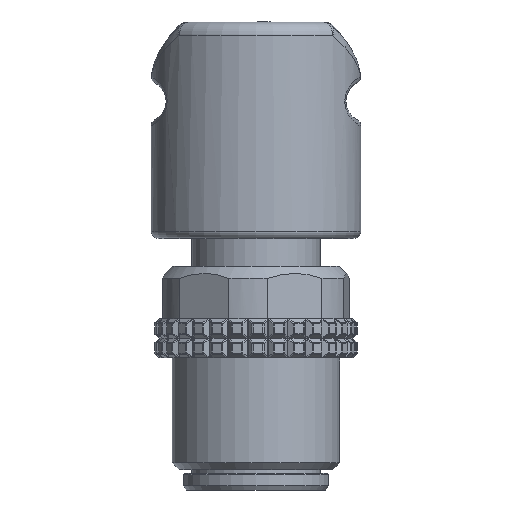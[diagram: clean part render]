
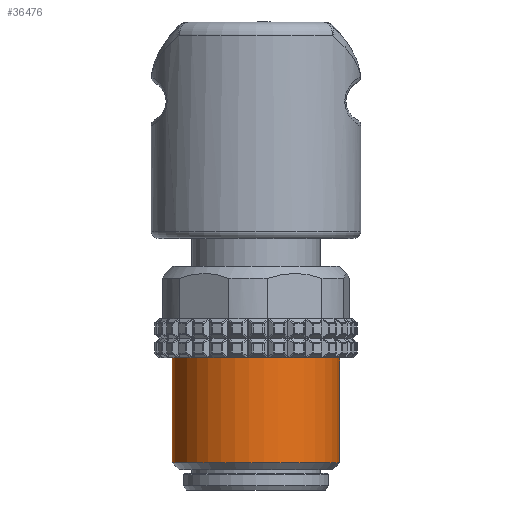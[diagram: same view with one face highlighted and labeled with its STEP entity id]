
A CAD part, left-side view. The second image highlights one B-rep face of the part: STEP entity #36476.
In plain terms, the highlighted cylindrical face has radius 6 mm (diameter 12 mm), a full revolution.
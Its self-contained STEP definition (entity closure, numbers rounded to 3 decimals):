
#36445=CARTESIAN_POINT('',(6.,0.,3.7));
#36446=VERTEX_POINT('',#36445);
#36447=CARTESIAN_POINT('',(0.0,0.0,3.7));
#36448=DIRECTION('',(0.0,0.0,1.0));
#36449=DIRECTION('',(-1.0,0.0,0.0));
#36450=AXIS2_PLACEMENT_3D('',#36447,#36448,#36449);
#36451=CIRCLE('',#36450,6.);
#36452=EDGE_CURVE('',#36446,#36446,#36451,.T.);
#36457=CARTESIAN_POINT('',(0.0,0.0,-3.8));
#36458=DIRECTION('',(0.0,0.0,1.0));
#36459=DIRECTION('',(-1.0,0.0,0.0));
#36460=AXIS2_PLACEMENT_3D('',#36457,#36458,#36459);
#36461=CYLINDRICAL_SURFACE('',#36460,6.);
#36462=CARTESIAN_POINT('',(6.,0.,-3.8));
#36463=VERTEX_POINT('',#36462);
#36464=CARTESIAN_POINT('',(0.0,0.0,-3.8));
#36465=DIRECTION('',(0.0,0.0,1.0));
#36466=DIRECTION('',(-1.0,0.0,0.0));
#36467=AXIS2_PLACEMENT_3D('',#36464,#36465,#36466);
#36468=CIRCLE('',#36467,6.);
#36469=EDGE_CURVE('',#36463,#36463,#36468,.T.);
#36470=ORIENTED_EDGE('',*,*,#36469,.T.);
#36471=EDGE_LOOP('',(#36470));
#36472=FACE_OUTER_BOUND('',#36471,.T.);
#36473=ORIENTED_EDGE('',*,*,#36452,.F.);
#36474=EDGE_LOOP('',(#36473));
#36475=FACE_BOUND('',#36474,.T.);
#36476=ADVANCED_FACE('',(#36472,#36475),#36461,.T.);
